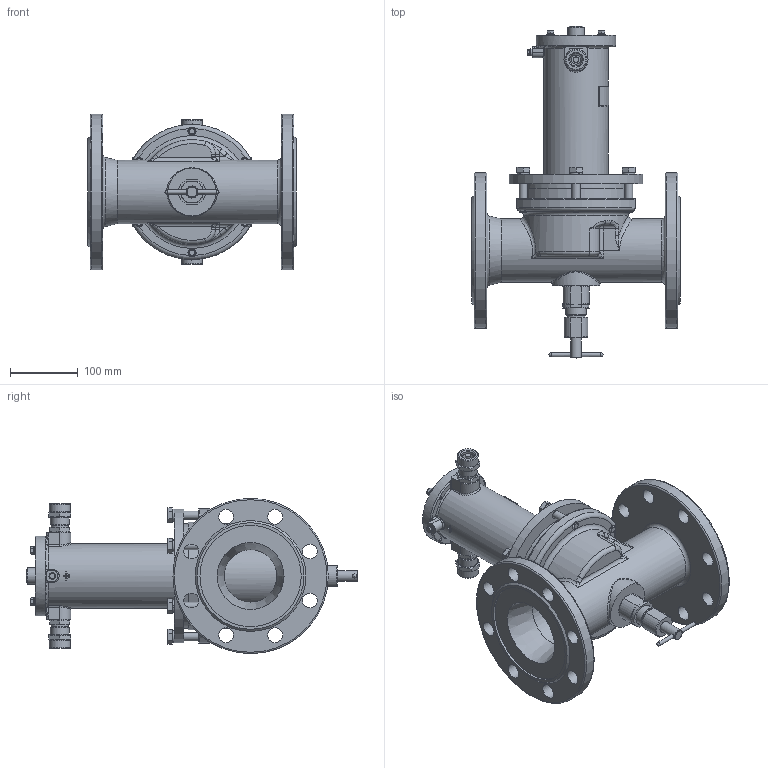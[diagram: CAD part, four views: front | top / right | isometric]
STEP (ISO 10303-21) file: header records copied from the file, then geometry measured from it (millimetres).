
FILE_DESCRIPTION(('STEP AP203'), '1');
FILE_NAME('ÑÅÍÑ DN100PN25-ÍÎ-ÑÂ.stp', '2018-09-19T08:36:11', ('Îðëîâ Å.Â.'), ('ÎÎÎ ÍÏÏ Ñåíñîð'), 'ASCON STEP Converter 1.3', 'Kompas 3D', '');
FILE_SCHEMA(('CONFIG_CONTROL_DESIGN','SUPPORT_RESOURCE_SCHEMA'));
Length unit declared in the file: millimetre
Products named in the file (1): 17
Bounding box: 308 x 491.5 x 230 mm (x, y, z)
Volume: 3708902.8 mm3; surface area: 775026 mm2
Topology: 3 solids, 21 shells, 1998 faces, 5324 edges, 3446 vertices
Faces by surface type: cylinder 1012, plane 730, cone 127, bspline 56, torus 49, extrusion 16, sphere 8
Full cylindrical faces by diameter (mm): 3.5 x2, 4.134 x1, 4.917 x4, 5 x1, 6 x9, 6.5 x4, 8 x6, 10 x1, 12 x16, 13 x8, 16 x2, 17 x2, 18 x1, 18.632 x2, 20 x3, 22 x18, 22.376 x2, 23 x1, 23.5 x2, 24 x3, 24.5 x2, 26 x4, 26.376 x2, 27.8 x1, 28 x3, 28.5 x2, 30 x2, 31 x2, 53 x1, 56 x2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
Entity records: 80040 total; most frequent: CARTESIAN_POINT 29314, DIRECTION 10927, ORIENTED_EDGE 10590, EDGE_CURVE 5295, AXIS2_PLACEMENT_3D 4209, VERTEX_POINT 3446, VECTOR 2509, LINE 2493
